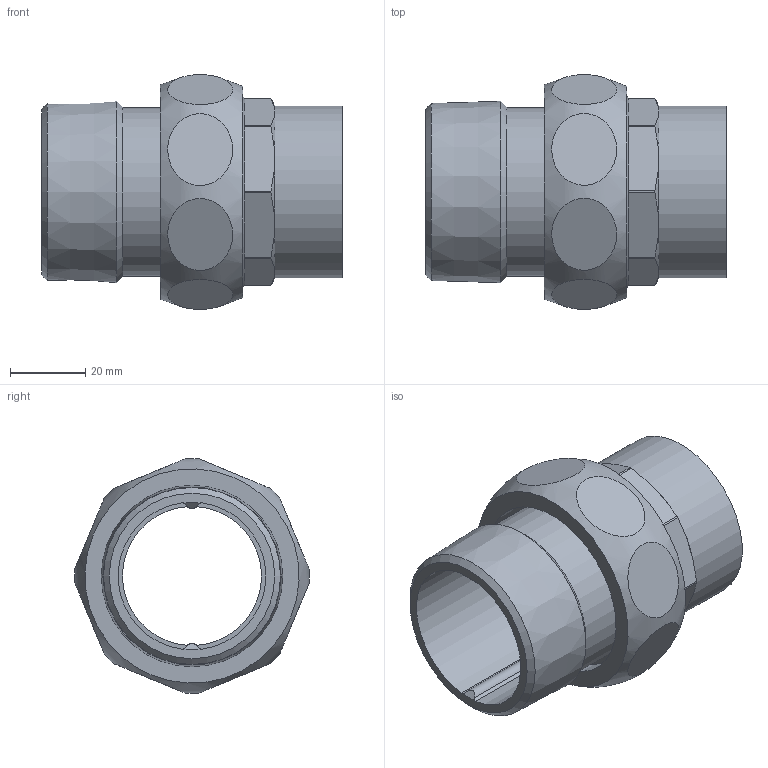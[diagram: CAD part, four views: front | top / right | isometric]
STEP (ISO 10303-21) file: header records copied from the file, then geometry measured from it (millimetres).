
FILE_DESCRIPTION((''),'2;1');
FILE_NAME('C:\Users\haldrzynski\Desktop\14331g_42-112(2).stp','2013-08-30T09:09:14',('haldrzynski'),(''),'Autodesk Inventor 2009','Autodesk Inventor 2009','');
FILE_SCHEMA(('AUTOMOTIVE_DESIGN { 1 0 10303 214 1 1 1 1 }'));
Length unit declared in the file: millimetre
Products named in the file (5): 14331g_42-112(2); 14371g_112-134(1); 14374_134(2); 1DCU134; 14370_42-134(2)
Assembly tree (4 placements, depth 2):
  14331g_42-112(2)
    14371g_112-134(1)
    14374_134(2)
    1DCU134
    14370_42-134(2)
Bounding box: 80 x 62.51 x 62.51 mm (x, y, z)
Volume: 59937.3 mm3; surface area: 36448.5 mm2
Topology: 4 solids, 4 shells, 73 faces, 153 edges, 98 vertices
Faces by surface type: plane 35, cylinder 26, cone 11, bspline 1
Full cylindrical faces by diameter (mm): 37 x1, 40 x1, 42 x1, 45 x1, 45.9 x1, 48 x1, 50 x1, 50.5 x1, 50.788 x1, 53.746 x1
Entity records: 3522 total; most frequent: CARTESIAN_POINT 1898, DIRECTION 328, ORIENTED_EDGE 262, AXIS2_PLACEMENT_3D 148, EDGE_CURVE 131, EDGE_LOOP 110, VERTEX_POINT 95, FACE_OUTER_BOUND 73
